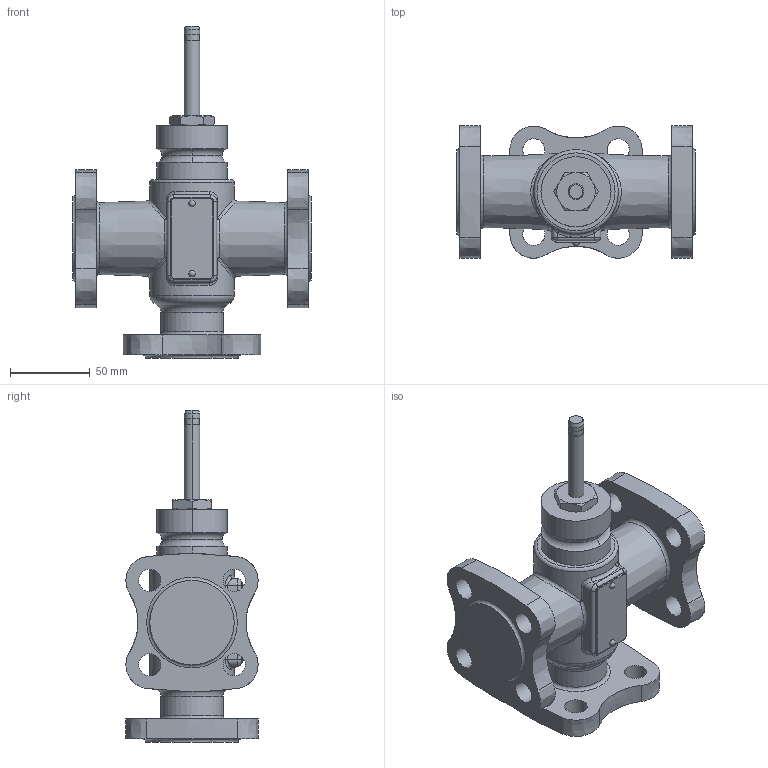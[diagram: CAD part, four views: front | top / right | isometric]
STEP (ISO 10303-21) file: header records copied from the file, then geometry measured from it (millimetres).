
FILE_DESCRIPTION(/* description */ ('Step214'),/* implementation_level */ '2;1');
FILE_NAME(/* name */ 'VXF32_42 DN20 RF.stp',/* time_stamp */ '2015-11-04T11:34:42+01:00',/* author */ (''),/* organization */ ('Siemens'),/* preprocessor_version */ 'ST-DEVELOPER v15',/* originating_system */ 'SIEMENS PLM Software NX 8.5',/* authorisation */ 'for Duktil only');
FILE_SCHEMA (('AUTOMOTIVE_DESIGN { 1 0 10303 214 3 1 1 1 }'));
Length unit declared in the file: millimetre
Products named in the file (1): Volc0CEC07D0ad0k
Bounding box: 150 x 82.99 x 208.5 mm (x, y, z)
Volume: 623394.1 mm3; surface area: 82960.2 mm2
Topology: 1 solids, 1 shells, 136 faces, 349 edges, 221 vertices
Faces by surface type: cylinder 40, plane 31, extrusion 24, torus 19, cone 8, bspline 8, sphere 6
Full cylindrical faces by diameter (mm): 14 x12, 39 x1, 53 x1
Entity records: 5553 total; most frequent: CARTESIAN_POINT 2514, ORIENTED_EDGE 600, DIRECTION 588, EDGE_CURVE 300, AXIS2_PLACEMENT_3D 239, VERTEX_POINT 202, EDGE_LOOP 196, ADVANCED_FACE 136
